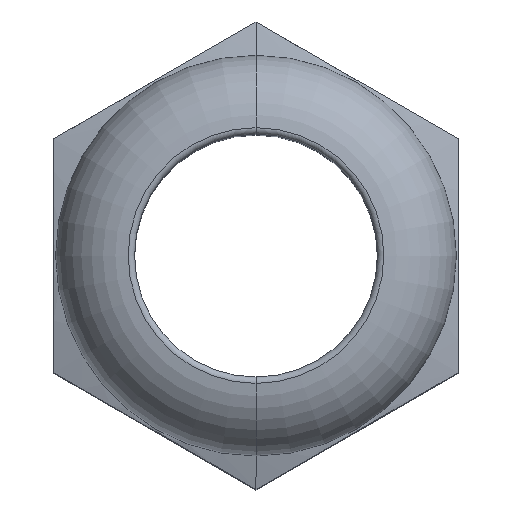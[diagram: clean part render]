
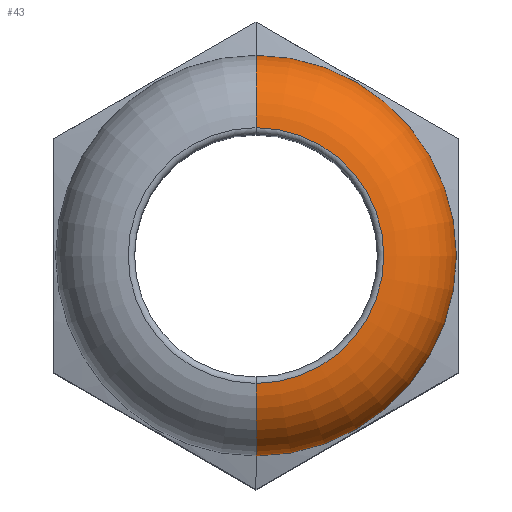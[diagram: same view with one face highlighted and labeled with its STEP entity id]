
A CAD part, top view. The second image highlights one B-rep face of the part: STEP entity #43.
In plain terms, the highlighted toroidal (fillet/blend) face has major radius 6.1 mm and minor radius 3.8 mm.
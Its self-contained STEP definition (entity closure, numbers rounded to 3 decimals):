
#16 = EDGE_LOOP ( 'NONE', ( #17, #18, #20, #21 ) ) ;
#17 = ORIENTED_EDGE ( 'NONE', *, *, #157, .T. ) ;
#18 = ORIENTED_EDGE ( 'NONE', *, *, #19, .T. ) ;
#19 = EDGE_CURVE ( 'NONE', #159, #53, #757, .T. ) ;
#20 = ORIENTED_EDGE ( 'NONE', *, *, #51, .F. ) ;
#21 = ORIENTED_EDGE ( 'NONE', *, *, #22, .F. ) ;
#22 = EDGE_CURVE ( 'NONE', #158, #52, #751, .T. ) ;
#43 = ADVANCED_FACE ( 'NONE', ( #737 ), #735, .T. ) ;
#51 = EDGE_CURVE ( 'NONE', #52, #53, #596, .T. ) ;
#52 = VERTEX_POINT ( 'NONE', #591 ) ;
#53 = VERTEX_POINT ( 'NONE', #590 ) ;
#157 = EDGE_CURVE ( 'NONE', #158, #159, #967, .T. ) ;
#158 = VERTEX_POINT ( 'NONE', #963 ) ;
#159 = VERTEX_POINT ( 'NONE', #962 ) ;
#590 = CARTESIAN_POINT ( 'NONE',  ( 0., -9.9, 25.7 ) ) ;
#591 = CARTESIAN_POINT ( 'NONE',  ( 0., 9.9, 25.7 ) ) ;
#592 = DIRECTION ( 'NONE',  ( 0., 1., 0. ) ) ;
#593 = DIRECTION ( 'NONE',  ( 0., 0., -1. ) ) ;
#594 = CARTESIAN_POINT ( 'NONE',  ( 0., 0., 25.7 ) ) ;
#595 = AXIS2_PLACEMENT_3D ( 'NONE', #594, #593, #592 ) ;
#596 = CIRCLE ( 'NONE', #595, 9.9 ) ;
#732 = DIRECTION ( 'NONE',  ( 0., 1., 0. ) ) ;
#733 = DIRECTION ( 'NONE',  ( 0., 0., -1. ) ) ;
#734 = AXIS2_PLACEMENT_3D ( 'NONE', #736, #733, #732 ) ;
#735 = TOROIDAL_SURFACE ( 'NONE', #734, 6.1, 3.8 ) ;
#736 = CARTESIAN_POINT ( 'NONE',  ( 0., 0., 25.7 ) ) ;
#737 = FACE_OUTER_BOUND ( 'NONE', #16, .T. ) ;
#747 = DIRECTION ( 'NONE',  ( 0., 0., 1. ) ) ;
#748 = DIRECTION ( 'NONE',  ( -1., 0., 0. ) ) ;
#749 = CARTESIAN_POINT ( 'NONE',  ( 0., 6.1, 25.7 ) ) ;
#750 = AXIS2_PLACEMENT_3D ( 'NONE', #749, #748, #747 ) ;
#751 = CIRCLE ( 'NONE', #750, 3.8 ) ;
#753 = DIRECTION ( 'NONE',  ( 0., 1., 0. ) ) ;
#754 = DIRECTION ( 'NONE',  ( 1., 0., 0. ) ) ;
#755 = CARTESIAN_POINT ( 'NONE',  ( 0., -6.1, 25.7 ) ) ;
#756 = AXIS2_PLACEMENT_3D ( 'NONE', #755, #754, #753 ) ;
#757 = CIRCLE ( 'NONE', #756, 3.8 ) ;
#781 = CARTESIAN_POINT ( 'NONE',  ( 0., 0., 29.494 ) ) ;
#962 = CARTESIAN_POINT ( 'NONE',  ( 0., -6.317, 29.494 ) ) ;
#963 = CARTESIAN_POINT ( 'NONE',  ( 0., 6.317, 29.494 ) ) ;
#964 = DIRECTION ( 'NONE',  ( 0., 1., 0. ) ) ;
#965 = DIRECTION ( 'NONE',  ( 0., 0., -1. ) ) ;
#966 = AXIS2_PLACEMENT_3D ( 'NONE', #781, #965, #964 ) ;
#967 = CIRCLE ( 'NONE', #966, 6.317 ) ;
